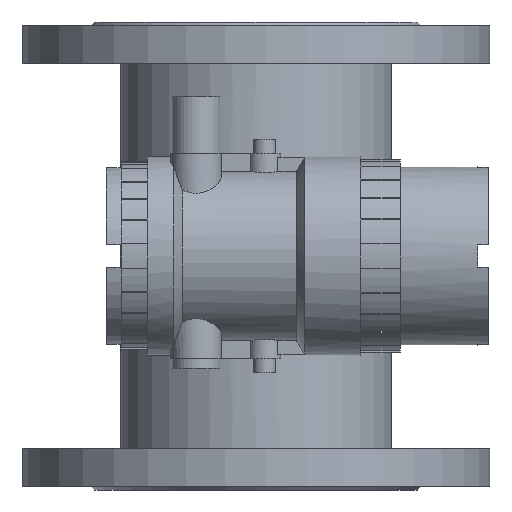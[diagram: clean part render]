
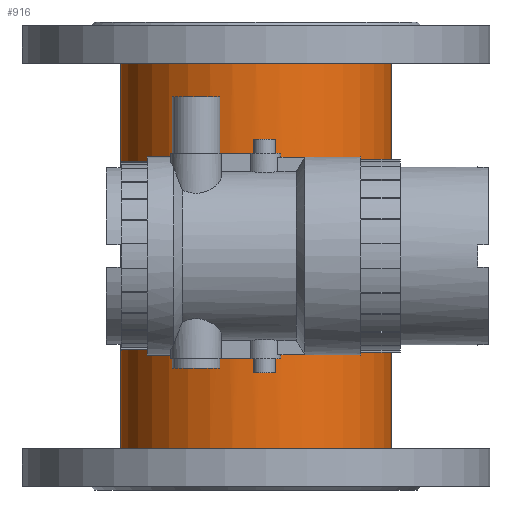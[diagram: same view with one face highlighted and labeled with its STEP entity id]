
A CAD part, left-side view. The second image highlights one B-rep face of the part: STEP entity #916.
In plain terms, the highlighted cylindrical face has radius 72.5 mm (diameter 145 mm), a full revolution.
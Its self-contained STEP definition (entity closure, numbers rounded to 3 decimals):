
#916=ADVANCED_FACE('',(#1256,#1257,#1258),#1131,.T.);
#1131=CYLINDRICAL_SURFACE('',#3904,72.5);
#1232=B_SPLINE_CURVE_WITH_KNOTS('',3,(#5491,#5492,#5493,#5494,#5495,#5496,
#5497,#5498,#5499,#5500,#5501,#5502,#5503,#5504,#5505,#5506,#5507,#5508,
#5509,#5510,#5511,#5512),.UNSPECIFIED.,.T.,.F.,(2,2,2,2,2,2,2,2,2,2,2,2,
2),(-0.125,0.,0.063,0.125,0.25,0.375,0.438,0.5,0.625,0.75,
0.875,1.,1.063),.UNSPECIFIED.);
#1256=FACE_BOUND('',#1398,.T.);
#1257=FACE_BOUND('',#1399,.T.);
#1258=FACE_BOUND('',#1400,.T.);
#1398=EDGE_LOOP('',(#1704));
#1399=EDGE_LOOP('',(#1705));
#1400=EDGE_LOOP('',(#1706));
#1704=ORIENTED_EDGE('',*,*,#3153,.F.);
#1705=ORIENTED_EDGE('',*,*,#3154,.T.);
#1706=ORIENTED_EDGE('',*,*,#3155,.F.);
#2774=VERTEX_POINT('',#5488);
#2775=VERTEX_POINT('',#5490);
#2776=VERTEX_POINT('',#5513);
#3153=EDGE_CURVE('',#2774,#2774,#3688,.T.);
#3154=EDGE_CURVE('',#2775,#2775,#3689,.T.);
#3155=EDGE_CURVE('',#2776,#2776,#1232,.T.);
#3688=CIRCLE('',#3902,72.5);
#3689=CIRCLE('',#3903,72.5);
#3902=AXIS2_PLACEMENT_3D('',#5487,#4332,#4333);
#3903=AXIS2_PLACEMENT_3D('',#5489,#4334,#4335);
#3904=AXIS2_PLACEMENT_3D('',#5514,#4336,#4337);
#4332=DIRECTION('',(0.,0.,-1.));
#4333=DIRECTION('',(-1.,0.,0.));
#4334=DIRECTION('',(0.,0.,-1.));
#4335=DIRECTION('',(1.,0.,0.));
#4336=DIRECTION('',(0.,0.,1.));
#4337=DIRECTION('',(1.,0.,0.));
#5487=CARTESIAN_POINT('',(231.3,0.,-226.5));
#5488=CARTESIAN_POINT('',(158.8,0.,-226.5));
#5489=CARTESIAN_POINT('',(231.3,0.,-20.5));
#5490=CARTESIAN_POINT('',(303.8,0.,-20.5));
#5491=CARTESIAN_POINT('',(158.8,4.242,-139.5));
#5492=CARTESIAN_POINT('',(158.8,-2.121,-139.5));
#5493=CARTESIAN_POINT('',(158.896,-4.202,-139.08));
#5494=CARTESIAN_POINT('',(159.225,-8.074,-137.472));
#5495=CARTESIAN_POINT('',(159.456,-9.845,-136.283));
#5496=CARTESIAN_POINT('',(160.153,-14.257,-131.869));
#5497=CARTESIAN_POINT('',(160.587,-15.997,-127.698));
#5498=CARTESIAN_POINT('',(160.588,-16.003,-119.322));
#5499=CARTESIAN_POINT('',(160.158,-14.285,-115.159));
#5500=CARTESIAN_POINT('',(159.454,-9.831,-110.703));
#5501=CARTESIAN_POINT('',(159.224,-8.069,-109.526));
#5502=CARTESIAN_POINT('',(158.896,-4.203,-107.921));
#5503=CARTESIAN_POINT('',(158.8,-2.099,-107.501));
#5504=CARTESIAN_POINT('',(158.8,4.177,-107.498));
#5505=CARTESIAN_POINT('',(159.221,8.352,-109.229));
#5506=CARTESIAN_POINT('',(160.153,14.257,-115.125));
#5507=CARTESIAN_POINT('',(160.587,15.997,-119.265));
#5508=CARTESIAN_POINT('',(160.588,16.003,-127.714));
#5509=CARTESIAN_POINT('',(160.154,14.259,-131.864));
#5510=CARTESIAN_POINT('',(159.225,8.385,-137.747));
#5511=CARTESIAN_POINT('',(158.8,4.242,-139.5));
#5512=CARTESIAN_POINT('',(158.8,-2.121,-139.5));
#5513=CARTESIAN_POINT('',(158.8,0.,-139.5));
#5514=CARTESIAN_POINT('',(231.3,0.,-335.5));
